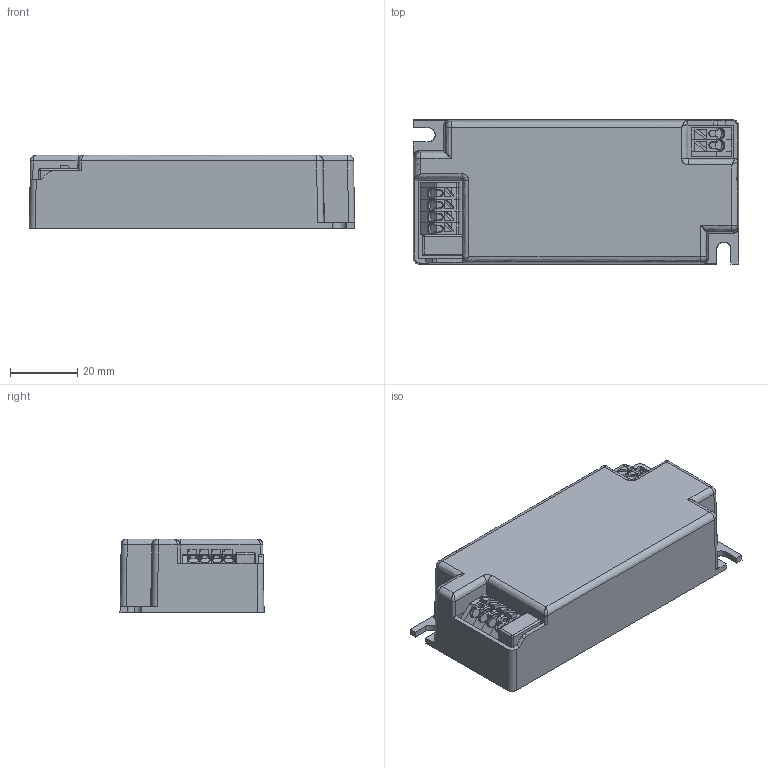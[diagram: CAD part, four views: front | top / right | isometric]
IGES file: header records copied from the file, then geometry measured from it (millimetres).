
Start section: SolidWorks IGES file using analytic representation for surfaces
Global section: file name: C:\Temp\OLQ-batchEngine\queue\temp_\4346135swm000.igs; native system: SolidWorks 2020; preprocessor: SolidWorks 2020; author: SYSTEM; date: 210922.105802; units: millimetre
Bounding box: 96.8 x 42.85 x 22 mm (x, y, z)
Surface area: 15207.4 mm2 (no closed solid volume)
Topology: 0 solids, 0 shells, 339 faces, 2462 edges, 2448 vertices
Faces by surface type: bspline 232, revolution 107
